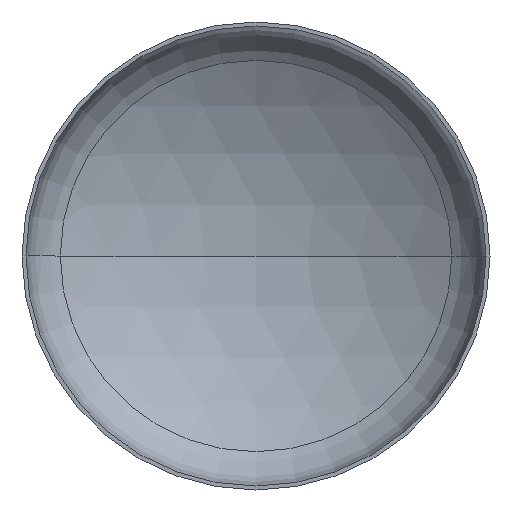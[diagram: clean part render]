
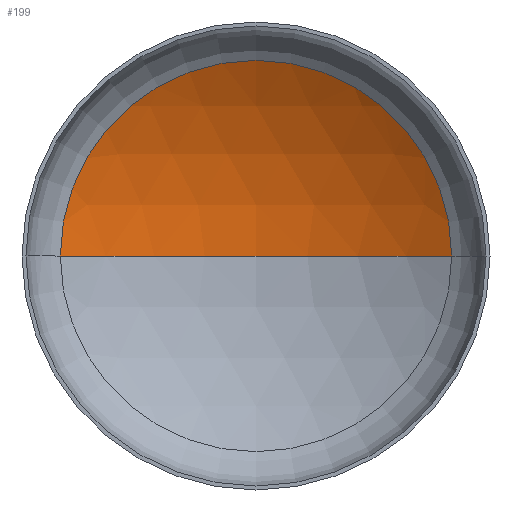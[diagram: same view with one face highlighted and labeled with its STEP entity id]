
A CAD part, front view. The second image highlights one B-rep face of the part: STEP entity #199.
In plain terms, the highlighted spherical face has radius 1040 mm.
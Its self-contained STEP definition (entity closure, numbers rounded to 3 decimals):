
#16 = EDGE_LOOP ( 'NONE', ( #32, #139, #127 ) ) ;
#32 = ORIENTED_EDGE ( 'NONE', *, *, #352, .F. ) ;
#34 = AXIS2_PLACEMENT_3D ( 'NONE', #166, #277, #281 ) ;
#37 = AXIS2_PLACEMENT_3D ( 'NONE', #310, #109, #182 ) ;
#47 = VERTEX_POINT ( 'NONE', #258 ) ;
#48 = AXIS2_PLACEMENT_3D ( 'NONE', #173, #337, #196 ) ;
#59 = VERTEX_POINT ( 'NONE', #275 ) ;
#73 = AXIS2_PLACEMENT_3D ( 'NONE', #292, #194, #336 ) ;
#76 = CIRCLE ( 'NONE', #48, 543.524 ) ;
#94 = VERTEX_POINT ( 'NONE', #243 ) ;
#109 = DIRECTION ( 'NONE',  ( 0., 0., -1. ) ) ;
#127 = ORIENTED_EDGE ( 'NONE', *, *, #346, .T. ) ;
#139 = ORIENTED_EDGE ( 'NONE', *, *, #349, .T. ) ;
#157 = SPHERICAL_SURFACE ( 'NONE', #73, 1040. ) ;
#166 = CARTESIAN_POINT ( 'NONE',  ( 0., -676.156, 0. ) ) ;
#173 = CARTESIAN_POINT ( 'NONE',  ( 0., 210.513, 0. ) ) ;
#182 = DIRECTION ( 'NONE',  ( -1., 0., 0. ) ) ;
#183 = CIRCLE ( 'NONE', #34, 1040. ) ;
#191 = CIRCLE ( 'NONE', #37, 1040. ) ;
#194 = DIRECTION ( 'NONE',  ( 0., 0., -1. ) ) ;
#196 = DIRECTION ( 'NONE',  ( 1., 0., 0. ) ) ;
#199 = ADVANCED_FACE ( 'NONE', ( #212 ), #157, .F. ) ;
#212 = FACE_OUTER_BOUND ( 'NONE', #16, .T. ) ;
#243 = CARTESIAN_POINT ( 'NONE',  ( 543.524, 210.513, 0. ) ) ;
#258 = CARTESIAN_POINT ( 'NONE',  ( -543.524, 210.513, 0. ) ) ;
#275 = CARTESIAN_POINT ( 'NONE',  ( 0., 363.844, 0. ) ) ;
#277 = DIRECTION ( 'NONE',  ( 0., 0., 1. ) ) ;
#281 = DIRECTION ( 'NONE',  ( 1., 0., 0. ) ) ;
#292 = CARTESIAN_POINT ( 'NONE',  ( 0., -676.156, 0. ) ) ;
#310 = CARTESIAN_POINT ( 'NONE',  ( 0., -676.156, 0. ) ) ;
#336 = DIRECTION ( 'NONE',  ( -1., 0., 0. ) ) ;
#337 = DIRECTION ( 'NONE',  ( 0., -1., 0. ) ) ;
#346 = EDGE_CURVE ( 'NONE', #94, #47, #76, .T. ) ;
#349 = EDGE_CURVE ( 'NONE', #59, #94, #191, .T. ) ;
#352 = EDGE_CURVE ( 'NONE', #59, #47, #183, .T. ) ;
